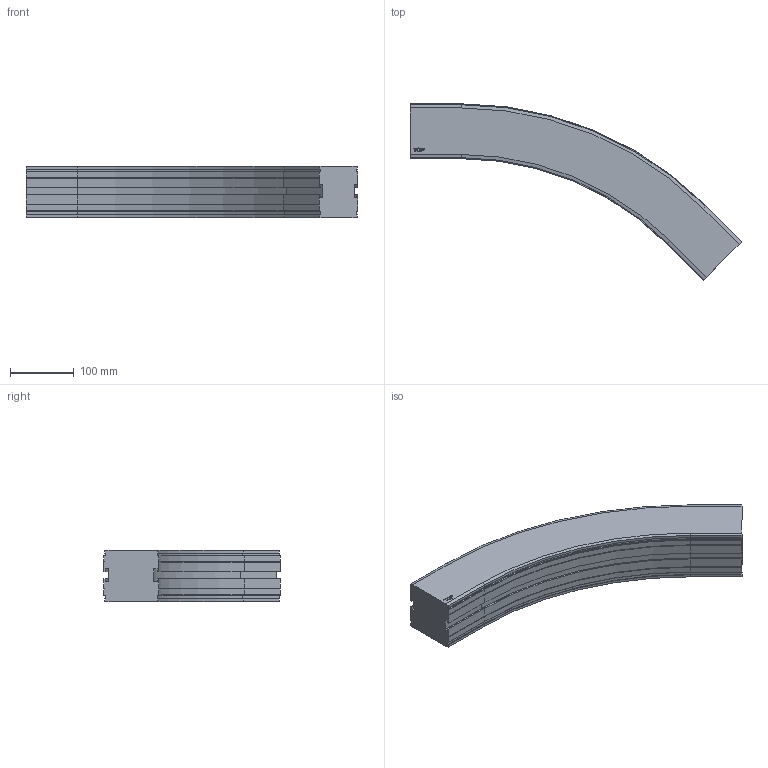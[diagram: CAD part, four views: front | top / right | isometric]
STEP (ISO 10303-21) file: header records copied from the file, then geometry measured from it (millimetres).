
FILE_DESCRIPTION((''),'2;1');
FILE_NAME('C:\Vault Klient\Projekt\Koncept konstruktion\Serie 830 Balk\830-5300.stp','2009-11-27T10:13:27',('Mathias'),(''),'Autodesk Inventor 2010','Autodesk Inventor 2010','');
FILE_SCHEMA(('AUTOMOTIVE_DESIGN { 1 0 10303 214 1 1 1 1 }'));
Length unit declared in the file: millimetre
Products named in the file (1): 830-5300
Bounding box: 520.53 x 276.42 x 81.5 mm (x, y, z)
Volume: 3673724.5 mm3; surface area: 239132.1 mm2
Topology: 1 solids, 1 shells, 169 faces, 446 edges, 284 vertices
Faces by surface type: plane 109, cylinder 30, bspline 14, cone 12, torus 4
Entity records: 5295 total; most frequent: CARTESIAN_POINT 1094, ORIENTED_EDGE 892, DIRECTION 802, EDGE_CURVE 446, VECTOR 346, LINE 346, VERTEX_POINT 284, AXIS2_PLACEMENT_3D 228
